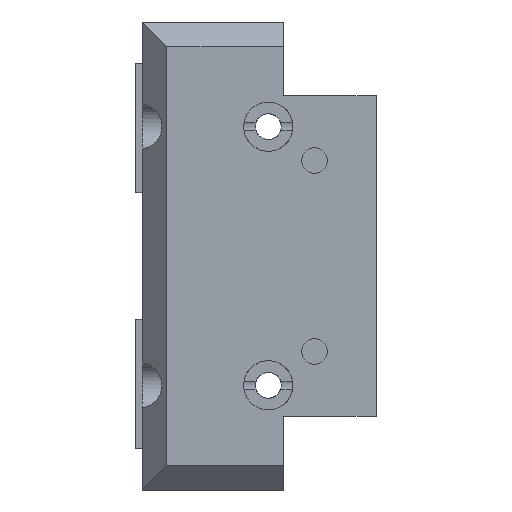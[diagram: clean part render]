
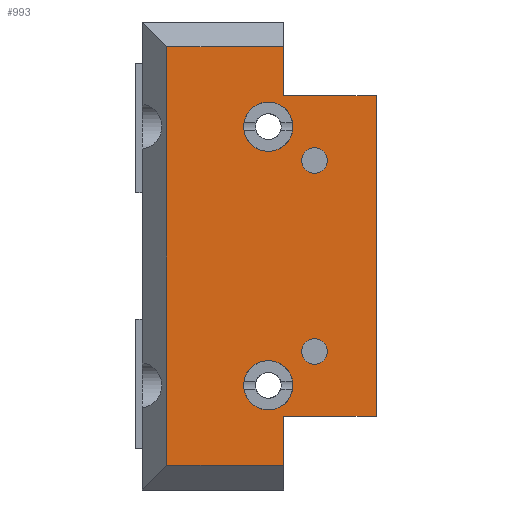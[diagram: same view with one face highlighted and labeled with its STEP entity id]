
A CAD part, left-side view. The second image highlights one B-rep face of the part: STEP entity #993.
In plain terms, the highlighted planar face has unit normal (-1, 0, 0).
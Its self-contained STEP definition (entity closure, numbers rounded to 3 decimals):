
#89 = VERTEX_POINT ( 'NONE', #2325 ) ;
#90 = VERTEX_POINT ( 'NONE', #2353 ) ;
#114 = VERTEX_POINT ( 'NONE', #2330 ) ;
#156 = EDGE_CURVE ( 'NONE', #114, #160, #2272, .T. ) ;
#157 = EDGE_CURVE ( 'NONE', #89, #90, #2376, .T. ) ;
#160 = VERTEX_POINT ( 'NONE', #2264 ) ;
#280 = VERTEX_POINT ( 'NONE', #2744 ) ;
#282 = EDGE_CURVE ( 'NONE', #280, #376, #2657, .T. ) ;
#287 = EDGE_CURVE ( 'NONE', #302, #359, #2771, .T. ) ;
#302 = VERTEX_POINT ( 'NONE', #2678 ) ;
#359 = VERTEX_POINT ( 'NONE', #2884 ) ;
#376 = VERTEX_POINT ( 'NONE', #2858 ) ;
#647 = VERTEX_POINT ( 'NONE', #3367 ) ;
#670 = EDGE_CURVE ( 'NONE', #647, #738, #3394, .T. ) ;
#738 = VERTEX_POINT ( 'NONE', #3527 ) ;
#829 = ORIENTED_EDGE ( 'NONE', *, *, #157, .F. ) ;
#831 = EDGE_CURVE ( 'NONE', #908, #876, #5809, .T. ) ;
#833 = EDGE_CURVE ( 'NONE', #876, #1056, #5708, .T. ) ;
#843 = ORIENTED_EDGE ( 'NONE', *, *, #156, .F. ) ;
#845 = EDGE_LOOP ( 'NONE', ( #964, #923 ) ) ;
#846 = EDGE_LOOP ( 'NONE', ( #847, #1055, #1058, #965, #877, #910, #857, #1047 ) ) ;
#847 = ORIENTED_EDGE ( 'NONE', *, *, #967, .T. ) ;
#857 = ORIENTED_EDGE ( 'NONE', *, *, #831, .T. ) ;
#869 = EDGE_LOOP ( 'NONE', ( #871, #870 ) ) ;
#870 = ORIENTED_EDGE ( 'NONE', *, *, #287, .F. ) ;
#871 = ORIENTED_EDGE ( 'NONE', *, *, #872, .F. ) ;
#872 = EDGE_CURVE ( 'NONE', #359, #302, #5837, .T. ) ;
#873 = VERTEX_POINT ( 'NONE', #5772 ) ;
#876 = VERTEX_POINT ( 'NONE', #5841 ) ;
#877 = ORIENTED_EDGE ( 'NONE', *, *, #670, .F. ) ;
#904 = ORIENTED_EDGE ( 'NONE', *, *, #1044, .F. ) ;
#908 = VERTEX_POINT ( 'NONE', #5746 ) ;
#909 = EDGE_CURVE ( 'NONE', #1057, #873, #5905, .T. ) ;
#910 = ORIENTED_EDGE ( 'NONE', *, *, #911, .F. ) ;
#911 = EDGE_CURVE ( 'NONE', #908, #647, #5898, .T. ) ;
#912 = EDGE_CURVE ( 'NONE', #873, #1666, #5894, .T. ) ;
#923 = ORIENTED_EDGE ( 'NONE', *, *, #282, .F. ) ;
#964 = ORIENTED_EDGE ( 'NONE', *, *, #1081, .F. ) ;
#965 = ORIENTED_EDGE ( 'NONE', *, *, #1662, .T. ) ;
#966 = EDGE_CURVE ( 'NONE', #90, #89, #3801, .T. ) ;
#967 = EDGE_CURVE ( 'NONE', #1056, #1057, #3853, .T. ) ;
#993 = ADVANCED_FACE ( 'NONE', ( #3769, #3735, #3809, #3736, #3823 ), #3745, .F. ) ;
#1043 = EDGE_LOOP ( 'NONE', ( #1045, #829 ) ) ;
#1044 = EDGE_CURVE ( 'NONE', #160, #114, #3778, .T. ) ;
#1045 = ORIENTED_EDGE ( 'NONE', *, *, #966, .F. ) ;
#1047 = ORIENTED_EDGE ( 'NONE', *, *, #833, .T. ) ;
#1055 = ORIENTED_EDGE ( 'NONE', *, *, #909, .T. ) ;
#1056 = VERTEX_POINT ( 'NONE', #3840 ) ;
#1057 = VERTEX_POINT ( 'NONE', #3843 ) ;
#1058 = ORIENTED_EDGE ( 'NONE', *, *, #912, .T. ) ;
#1080 = EDGE_LOOP ( 'NONE', ( #904, #843 ) ) ;
#1081 = EDGE_CURVE ( 'NONE', #376, #280, #3860, .T. ) ;
#1662 = EDGE_CURVE ( 'NONE', #1666, #738, #4880, .T. ) ;
#1666 = VERTEX_POINT ( 'NONE', #4862 ) ;
#2262 = DIRECTION ( 'NONE',  ( -1., 0., 0. ) ) ;
#2263 = AXIS2_PLACEMENT_3D ( 'NONE', #2280, #2262, #2348 ) ;
#2264 = CARTESIAN_POINT ( 'NONE',  ( -18., 7.9, 15.5 ) ) ;
#2265 = AXIS2_PLACEMENT_3D ( 'NONE', #2283, #2346, #2345 ) ;
#2272 = CIRCLE ( 'NONE', #2263, 2.1 ) ;
#2280 = CARTESIAN_POINT ( 'NONE',  ( -18., 10., 15.5 ) ) ;
#2283 = CARTESIAN_POINT ( 'NONE',  ( -18., 10., -15.5 ) ) ;
#2325 = CARTESIAN_POINT ( 'NONE',  ( -18., 12.1, -15.5 ) ) ;
#2330 = CARTESIAN_POINT ( 'NONE',  ( -18., 12.1, 15.5 ) ) ;
#2345 = DIRECTION ( 'NONE',  ( 0., -1., 0. ) ) ;
#2346 = DIRECTION ( 'NONE',  ( -1., 0., 0. ) ) ;
#2348 = DIRECTION ( 'NONE',  ( 0., -1., 0. ) ) ;
#2353 = CARTESIAN_POINT ( 'NONE',  ( -18., 7.9, -15.5 ) ) ;
#2376 = CIRCLE ( 'NONE', #2265, 2.1 ) ;
#2657 = CIRCLE ( 'NONE', #2775, 4. ) ;
#2671 = AXIS2_PLACEMENT_3D ( 'NONE', #2781, #2713, #2712 ) ;
#2678 = CARTESIAN_POINT ( 'NONE',  ( -18., 21.5, 21. ) ) ;
#2712 = DIRECTION ( 'NONE',  ( 0., -1., 0. ) ) ;
#2713 = DIRECTION ( 'NONE',  ( -1., 0., 0. ) ) ;
#2740 = DIRECTION ( 'NONE',  ( -1., 0., 0. ) ) ;
#2741 = CARTESIAN_POINT ( 'NONE',  ( -18., 17.5, -21. ) ) ;
#2744 = CARTESIAN_POINT ( 'NONE',  ( -18., 21.5, -21. ) ) ;
#2771 = CIRCLE ( 'NONE', #2671, 4. ) ;
#2774 = DIRECTION ( 'NONE',  ( 0., -1., 0. ) ) ;
#2775 = AXIS2_PLACEMENT_3D ( 'NONE', #2741, #2740, #2774 ) ;
#2781 = CARTESIAN_POINT ( 'NONE',  ( -18., 17.5, 21. ) ) ;
#2858 = CARTESIAN_POINT ( 'NONE',  ( -18., 13.5, -21. ) ) ;
#2884 = CARTESIAN_POINT ( 'NONE',  ( -18., 13.5, 21. ) ) ;
#3367 = CARTESIAN_POINT ( 'NONE',  ( -18., 0., 26. ) ) ;
#3394 = LINE ( 'NONE', #3433, #3429 ) ;
#3428 = DIRECTION ( 'NONE',  ( 0., 0., -1. ) ) ;
#3429 = VECTOR ( 'NONE', #3428, 1000. ) ;
#3433 = CARTESIAN_POINT ( 'NONE',  ( -18., 0., 38. ) ) ;
#3527 = CARTESIAN_POINT ( 'NONE',  ( -18., 0., -26. ) ) ;
#3700 = DIRECTION ( 'NONE',  ( -1., 0., 0. ) ) ;
#3704 = DIRECTION ( 'NONE',  ( -1., 0., 0. ) ) ;
#3723 = AXIS2_PLACEMENT_3D ( 'NONE', #3728, #3700, #3784 ) ;
#3728 = CARTESIAN_POINT ( 'NONE',  ( -18., 10., -15.5 ) ) ;
#3735 = FACE_BOUND ( 'NONE', #869, .T. ) ;
#3736 = FACE_BOUND ( 'NONE', #1043, .T. ) ;
#3745 = PLANE ( 'NONE',  #3783 ) ;
#3754 = DIRECTION ( 'NONE',  ( 0., 1., 0. ) ) ;
#3755 = DIRECTION ( 'NONE',  ( 1., 0., 0. ) ) ;
#3756 = CARTESIAN_POINT ( 'NONE',  ( -18., 38., 38. ) ) ;
#3769 = FACE_BOUND ( 'NONE', #845, .T. ) ;
#3778 = CIRCLE ( 'NONE', #3780, 2.1 ) ;
#3780 = AXIS2_PLACEMENT_3D ( 'NONE', #3799, #3704, #3847 ) ;
#3783 = AXIS2_PLACEMENT_3D ( 'NONE', #3756, #3755, #3754 ) ;
#3784 = DIRECTION ( 'NONE',  ( 0., -1., 0. ) ) ;
#3799 = CARTESIAN_POINT ( 'NONE',  ( -18., 10., 15.5 ) ) ;
#3801 = CIRCLE ( 'NONE', #3723, 2.1 ) ;
#3809 = FACE_BOUND ( 'NONE', #1080, .T. ) ;
#3823 = FACE_OUTER_BOUND ( 'NONE', #846, .T. ) ;
#3826 = DIRECTION ( 'NONE',  ( 0., 0., -1. ) ) ;
#3827 = VECTOR ( 'NONE', #3826, 1000. ) ;
#3840 = CARTESIAN_POINT ( 'NONE',  ( -18., 34., 34. ) ) ;
#3843 = CARTESIAN_POINT ( 'NONE',  ( -18., 34., -34. ) ) ;
#3847 = DIRECTION ( 'NONE',  ( 0., -1., 0. ) ) ;
#3852 = CARTESIAN_POINT ( 'NONE',  ( -18., 34., 38. ) ) ;
#3853 = LINE ( 'NONE', #3852, #3827 ) ;
#3860 = CIRCLE ( 'NONE', #3936, 4. ) ;
#3933 = DIRECTION ( 'NONE',  ( 0., -1., 0. ) ) ;
#3934 = DIRECTION ( 'NONE',  ( -1., 0., 0. ) ) ;
#3935 = CARTESIAN_POINT ( 'NONE',  ( -18., 17.5, -21. ) ) ;
#3936 = AXIS2_PLACEMENT_3D ( 'NONE', #3935, #3934, #3933 ) ;
#4815 = DIRECTION ( 'NONE',  ( 0., -1., 0. ) ) ;
#4816 = VECTOR ( 'NONE', #4815, 1000. ) ;
#4862 = CARTESIAN_POINT ( 'NONE',  ( -18., 15., -26. ) ) ;
#4879 = CARTESIAN_POINT ( 'NONE',  ( -18., 75.947, -26. ) ) ;
#4880 = LINE ( 'NONE', #4879, #4816 ) ;
#5707 = CARTESIAN_POINT ( 'NONE',  ( -18., 38., 34. ) ) ;
#5708 = LINE ( 'NONE', #5707, #5804 ) ;
#5746 = CARTESIAN_POINT ( 'NONE',  ( -18., 15., 26. ) ) ;
#5772 = CARTESIAN_POINT ( 'NONE',  ( -18., 15., -34. ) ) ;
#5803 = DIRECTION ( 'NONE',  ( 0., 1., 0. ) ) ;
#5804 = VECTOR ( 'NONE', #5803, 1000. ) ;
#5806 = DIRECTION ( 'NONE',  ( 0., 0., 1. ) ) ;
#5807 = VECTOR ( 'NONE', #5806, 1000. ) ;
#5808 = CARTESIAN_POINT ( 'NONE',  ( -18., 15., 38. ) ) ;
#5809 = LINE ( 'NONE', #5808, #5807 ) ;
#5832 = DIRECTION ( 'NONE',  ( 0., -1., 0. ) ) ;
#5833 = DIRECTION ( 'NONE',  ( -1., 0., 0. ) ) ;
#5834 = CARTESIAN_POINT ( 'NONE',  ( -18., 17.5, 21. ) ) ;
#5835 = AXIS2_PLACEMENT_3D ( 'NONE', #5834, #5833, #5832 ) ;
#5837 = CIRCLE ( 'NONE', #5835, 4. ) ;
#5841 = CARTESIAN_POINT ( 'NONE',  ( -18., 15., 34. ) ) ;
#5891 = DIRECTION ( 'NONE',  ( 0., 0., 1. ) ) ;
#5892 = VECTOR ( 'NONE', #5891, 1000. ) ;
#5893 = CARTESIAN_POINT ( 'NONE',  ( -18., 15., -26. ) ) ;
#5894 = LINE ( 'NONE', #5893, #5892 ) ;
#5895 = DIRECTION ( 'NONE',  ( 0., -1., 0. ) ) ;
#5896 = VECTOR ( 'NONE', #5895, 1000. ) ;
#5897 = CARTESIAN_POINT ( 'NONE',  ( -18., 75.947, 26. ) ) ;
#5898 = LINE ( 'NONE', #5897, #5896 ) ;
#5902 = DIRECTION ( 'NONE',  ( 0., -1., 0. ) ) ;
#5903 = VECTOR ( 'NONE', #5902, 1000. ) ;
#5904 = CARTESIAN_POINT ( 'NONE',  ( -18., 38., -34. ) ) ;
#5905 = LINE ( 'NONE', #5904, #5903 ) ;
